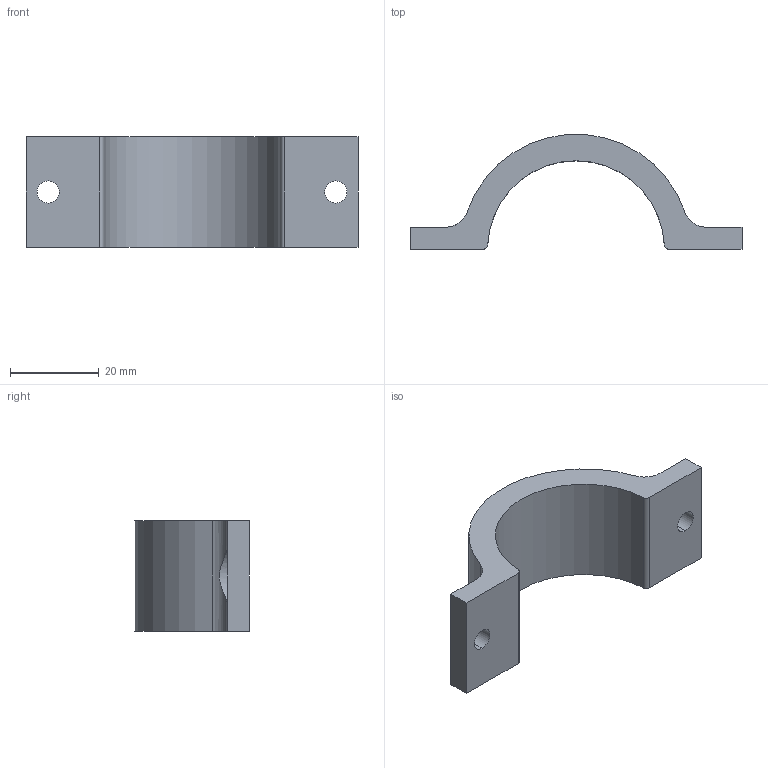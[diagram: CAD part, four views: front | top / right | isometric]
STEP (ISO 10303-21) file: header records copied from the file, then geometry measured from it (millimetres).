
FILE_DESCRIPTION (( 'STEP AP203' ), '1' );
FILE_NAME ('objemka_fi40_pol.STEP', '2024-12-08T09:49:37', ( '' ), ( '' ), 'SwSTEP 2.0', 'SolidWorks 2023', '' );
FILE_SCHEMA (( 'CONFIG_CONTROL_DESIGN' ));
Length unit declared in the file: millimetre
Products named in the file (1): objemka_fi40_pol
Bounding box: 75.03 x 25.91 x 25 mm (x, y, z)
Volume: 13657.5 mm3; surface area: 6220 mm2
Topology: 1 solids, 1 shells, 20 faces, 54 edges, 36 vertices
Faces by surface type: cylinder 12, plane 8
Entity records: 783 total; most frequent: CARTESIAN_POINT 173, DIRECTION 116, ORIENTED_EDGE 108, EDGE_CURVE 54, AXIS2_PLACEMENT_3D 43, VERTEX_POINT 36, LINE 30, VECTOR 30
